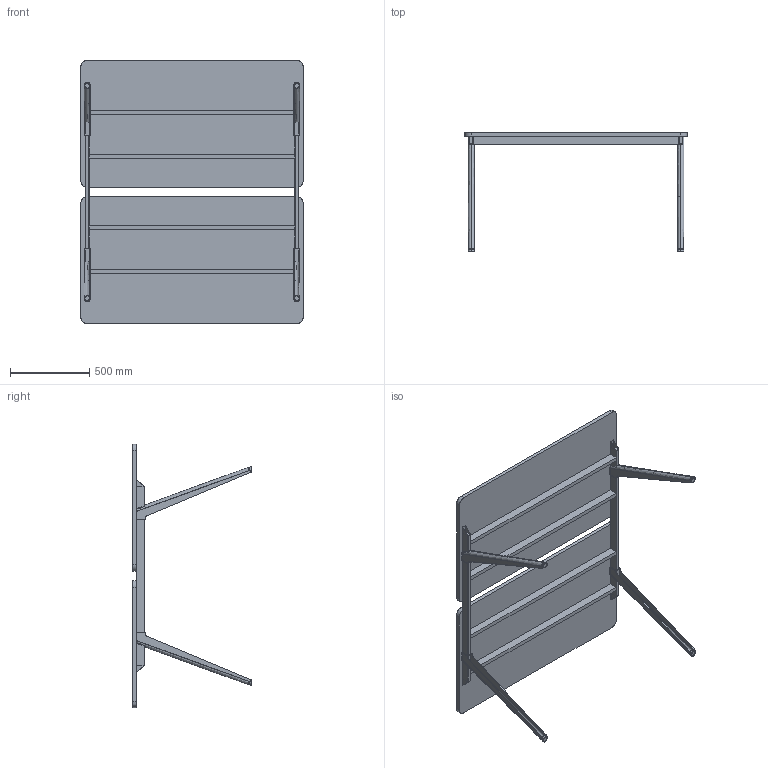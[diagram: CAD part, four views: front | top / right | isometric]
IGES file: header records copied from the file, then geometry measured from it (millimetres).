
Start section: SolidWorks IGES file using analytic representation for surfaces
Global section: file name: C:\Users\simone.cerana\OneDrive - Gruppo Tecno\Desktop\CHINA\DISEGNI DI SERIE\ASSIEMI LISTINO\HORIZON LISTINO\HO1416ST.IGS; native system: SolidWorks 2024; preprocessor: SolidWorks 2024; author: simone.cerana; date: 260508.124108; units: millimetre
Bounding box: 1400 x 749.83 x 1660 mm (x, y, z)
Surface area: 6241746.4 mm2 (no closed solid volume)
Topology: 0 solids, 0 shells, 284 faces, 3792 edges, 3792 vertices
Faces by surface type: bspline 192, revolution 92
